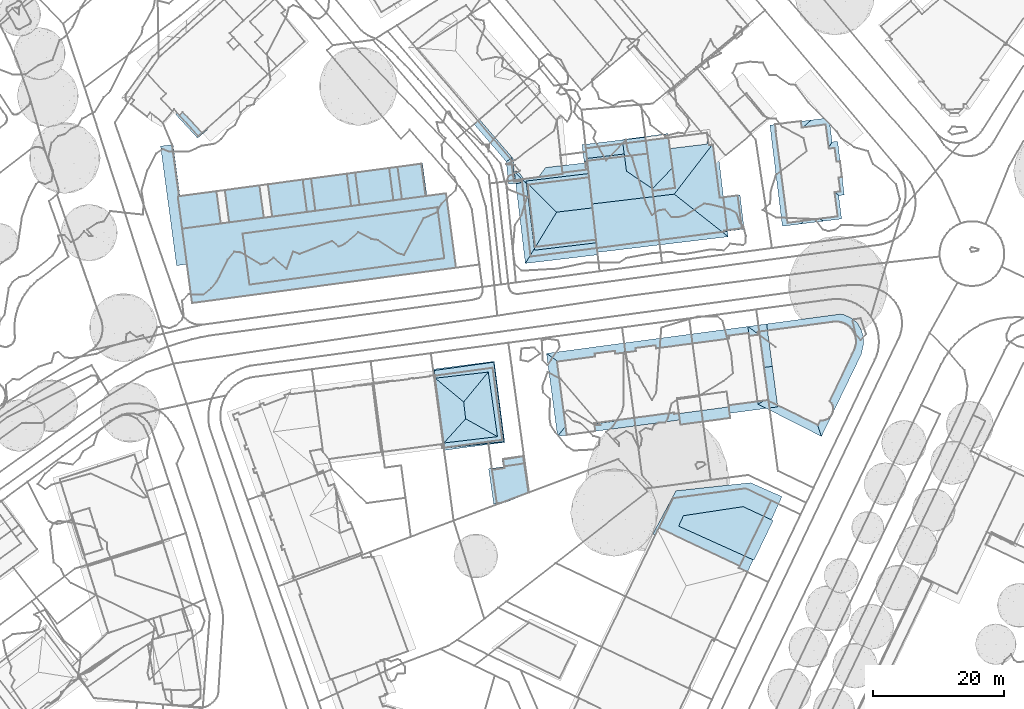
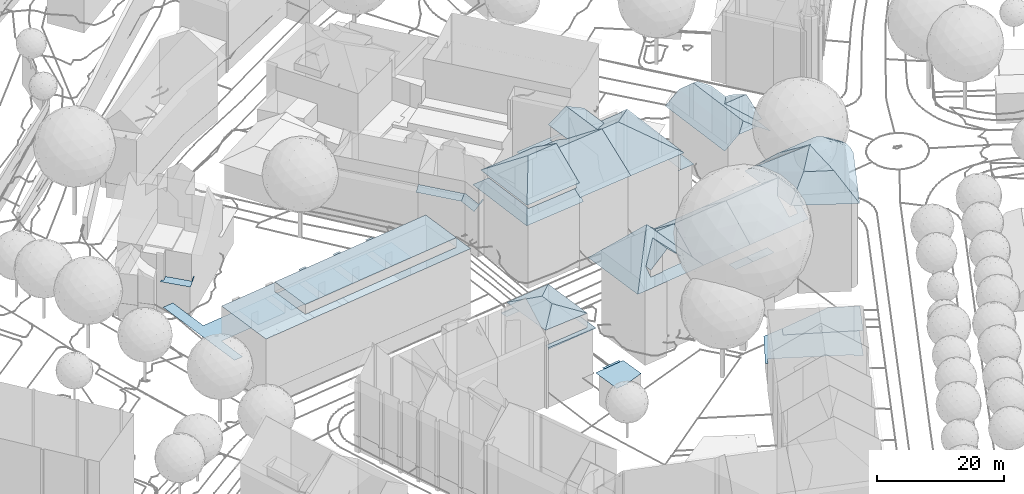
# Not in any storey, part 73 of 494: 28 roofs.
"""IFC2X3 model written with IfcOpenShell, lengths in metres."""

import ifcopenshell
import ifcopenshell.guid

model = None  # the IFC model being written
_history = None  # IfcOwnerHistory: only IFC2X3 demands one
_inside = {}  # id of a spatial element -> (the spatial element, [elements in it])
_under = {}  # id of a project, library or spatial element -> (it, [spatial elements below it])
_declared = {}  # id of a project -> (the project, [libraries it declares])
_typed = {}  # id of a type object -> (the type object, [elements of that type])
_made_of = {}  # id of a material, layer set ... -> (it, [elements and type objects made of it])


def new_model(schema):
    """Start an empty IFC model of exactly this schema.

    Asked for "IFC4X3", IfcOpenShell would pick the latest addendum, in which some entities
    have other attributes; the version numbers below select the first issue.
    IFC2X3 requires an IfcOwnerHistory on every rooted entity: one is made here for all.
    """
    global model, _history
    if schema == "IFC4X3":
        model = ifcopenshell.file(schema_version=(4, 3, 0, 0))
    else:
        model = ifcopenshell.file(schema=schema)
    _inside.clear()
    _under.clear()
    _declared.clear()
    _typed.clear()
    _made_of.clear()
    _history = None
    if model.schema == "IFC2X3":
        org = make("IfcOrganization", Name="unknown")
        user = make(
            "IfcPersonAndOrganization",
            ThePerson=make("IfcPerson", FamilyName="unknown"),
            TheOrganization=org,
        )
        app = make(
            "IfcApplication",
            ApplicationDeveloper=org,
            Version="unknown",
            ApplicationFullName="unknown",
            ApplicationIdentifier="unknown",
        )
        _history = make(
            "IfcOwnerHistory",
            OwningUser=user,
            OwningApplication=app,
            ChangeAction="ADDED",
            CreationDate=0,
        )
    return model


def make(cls, **values):
    """One entity of the class cls with the attributes given. An attribute that is None is left unset."""
    return model.create_entity(
        cls, **{name: value for name, value in values.items() if value is not None}
    )


def rooted(cls, **values):
    """An entity with a GlobalId (a new one), such as an element, a storey or a relation."""
    return make(cls, GlobalId=ifcopenshell.guid.new(), OwnerHistory=_history, **values)


def si_unit(unit_type, name, prefix=None):
    """IfcSIUnit, for example si_unit("LENGTHUNIT", "METRE", prefix="MILLI")."""
    return make("IfcSIUnit", UnitType=unit_type, Prefix=prefix, Name=name)


def assignment(units):
    """IfcUnitAssignment: the units of a project."""
    return None if units is None else make("IfcUnitAssignment", Units=units)


def point(xyz):
    """IfcCartesianPoint."""
    return None if xyz is None else make("IfcCartesianPoint", Coordinates=xyz)


def direction(xyz):
    """IfcDirection."""
    return None if xyz is None else make("IfcDirection", DirectionRatios=xyz)


def frame(location, z_axis=None, x_axis=None):
    """IfcAxis2Placement3D, a coordinate frame: its origin and axes. An axis left out is left unset."""
    return make(
        "IfcAxis2Placement3D",
        Location=point(location),
        Axis=direction(z_axis),
        RefDirection=direction(x_axis),
    )


def origin_with_axes():
    """The frame at (0, 0, 0) with the z axis (0, 0, 1) and the x axis (1, 0, 0) written out."""
    return frame((0.0, 0.0, 0.0), z_axis=(0.0, 0.0, 1.0), x_axis=(1.0, 0.0, 0.0))


def place(relative_to, where):
    """IfcLocalPlacement: puts the frame where relative to a parent placement (None: the world)."""
    return make(
        "IfcLocalPlacement", PlacementRelTo=relative_to, RelativePlacement=where
    )


def context(
    kind, dimensions, precision=None, world=None, true_north=None, identifier=None
):
    """IfcGeometricRepresentationContext, for example the 3D "Model" context."""
    return make(
        "IfcGeometricRepresentationContext",
        ContextIdentifier=identifier,
        ContextType=kind,
        CoordinateSpaceDimension=dimensions,
        Precision=precision,
        WorldCoordinateSystem=world,
        TrueNorth=true_north,
    )


def subcontext(parent, identifier, kind, view, scale=None):
    """IfcGeometricRepresentationSubContext, for example "Body" below "Model"."""
    return make(
        "IfcGeometricRepresentationSubContext",
        ContextIdentifier=identifier,
        ContextType=kind,
        ParentContext=parent,
        TargetScale=scale,
        TargetView=view,
    )


def project(units=None, contexts=None):
    """IfcProject with its units and contexts."""
    return rooted(
        "IfcProject",
        Name="project",
        RepresentationContexts=contexts,
        UnitsInContext=assignment(units),
    )


def faces_of(points, faces, orient=None, outer=None):
    """IfcFace entities. A face is a list of loops; a loop is a list of indices into points, from 0.

    orient and outer hold one flag for each loop. By default every Orientation is true, the
    first loop of a face is its IfcFaceOuterBound and the others are IfcFaceBound.
    """
    made = []
    for i, loops in enumerate(faces):
        bounds = []
        for j, loop in enumerate(loops):
            is_outer = j == 0 if outer is None else outer[i][j]
            bounds.append(
                make(
                    "IfcFaceOuterBound" if is_outer else "IfcFaceBound",
                    Bound=make("IfcPolyLoop", Polygon=[points[k] for k in loop]),
                    Orientation=True if orient is None else orient[i][j],
                )
            )
        made.append(make("IfcFace", Bounds=bounds))
    return made


def faceted_brep(points, faces, orient=None, outer=None, voids=None):
    """IfcFacetedBrep: a solid bounded by flat faces; with voids (closed shells), ...WithVoids."""
    shared = [point(p) for p in points]
    hull = make("IfcClosedShell", CfsFaces=faces_of(shared, faces, orient, outer))
    if voids is None:
        return make("IfcFacetedBrep", Outer=hull)
    return make(
        "IfcFacetedBrepWithVoids",
        Outer=hull,
        Voids=[
            make(cls, CfsFaces=faces_of(shared, fs, o, b)) for cls, fs, o, b in voids
        ],
    )


def shape(context_of_items, identifier, shape_type, items):
    """IfcShapeRepresentation: the items that make up one representation, for example the "Body"."""
    return make(
        "IfcShapeRepresentation",
        ContextOfItems=context_of_items,
        RepresentationIdentifier=identifier,
        RepresentationType=shape_type,
        Items=items,
    )


def made_of(thing, what):
    """Note that an element or type object is made of a material, layer set ...; save() writes the relation."""
    if what is not None:
        _made_of.setdefault(what.id(), (what, []))[1].append(thing)
    return thing


def element(
    cls,
    number,
    at=None,
    inside=None,
    cuts=None,
    type_object=None,
    material=None,
    context=None,
    identifier="Body",
    shape_type=None,
    held_by="IfcProductDefinitionShape",
    body=None,
    shapes=None,
    **own,
):
    """One element of the class cls, such as IfcWall. Its Tag is "e" and its number.

    at: its placement. inside: the storey or other place that contains it. cuts: it is an
    opening in that element (IfcRelVoidsElement). A single representation is given by context,
    identifier, shape_type and body (its items); several are given by shapes. held_by: the class
    of the entity that holds the representations. save() writes the other relations.
    """
    e = rooted(cls, Tag="e%d" % number, ObjectPlacement=at, **own)
    if body is not None:
        shapes = [shape(context, identifier, shape_type, body)]
    if shapes is not None:
        e.Representation = make(held_by, Representations=shapes)
    if inside is not None:
        _inside.setdefault(inside.id(), (inside, []))[1].append(e)
    if cuts is not None:
        rooted(
            "IfcRelVoidsElement", RelatingBuildingElement=cuts, RelatedOpeningElement=e
        )
    if type_object is not None:
        _typed.setdefault(type_object.id(), (type_object, []))[1].append(e)
    return made_of(e, material)


def aggregate(whole, parts):
    """IfcRelAggregates: a whole, such as a stair, and the parts it consists of."""
    return rooted("IfcRelAggregates", RelatingObject=whole, RelatedObjects=parts)


def save(model, path):
    """Write the relations noted so far, then the file.

    IfcRelAggregates (storeys below a building ...), IfcRelContainedInSpatialStructure (elements
    in a storey), IfcRelDefinesByType, IfcRelAssociatesMaterial and IfcRelDeclares: one each for
    every whole, place, type object, material and project.
    """
    for whole, parts in _under.values():
        aggregate(whole, parts)
    for where, things in _inside.values():
        rooted(
            "IfcRelContainedInSpatialStructure",
            RelatedElements=things,
            RelatingStructure=where,
        )
    for kind, things in _typed.values():
        rooted("IfcRelDefinesByType", RelatedObjects=things, RelatingType=kind)
    for what, things in _made_of.values():
        rooted("IfcRelAssociatesMaterial", RelatedObjects=things, RelatingMaterial=what)
    for by, libraries in _declared.values():
        rooted("IfcRelDeclares", RelatingContext=by, RelatedDefinitions=libraries)
    model.write(path)


model = new_model("IFC2X3")

# Units and contexts
model_context = context("Model", 3, precision=1e-05, world=origin_with_axes())
body_context = subcontext(model_context, "Body", "Model", "MODEL_VIEW")
ifc_project = project(units=[si_unit("AREAUNIT", "SQUARE_METRE"), si_unit("LENGTHUNIT", "METRE")], contexts=[model_context])

# Roofs
roof_1_placement = place(None, frame((511.1767320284, 156.3465160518, 499.6435), z_axis=(0.0, 0.0, 1.0), x_axis=(1.0, 0.0, 0.0)))
element("IfcRoof", 1, at=roof_1_placement, Name="Roof 0", ShapeType="NOTDEFINED", context=body_context, shape_type="Brep", body=[
    faceted_brep([(5.6009999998, -3.5645000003, 6.2974), (-0.5510000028, 0.183600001, 6.2974), (2.057, -4.9600000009, 6.2974), (4.936999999, 0.9834000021, 6.2974), (0.2249999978, -5.2216999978, 6.2974)], [[[0, 1, 2]], [[0, 3, 1]], [[2, 1, 4]]]),
])
roof_2_placement = place(None, frame((511.1767320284, 156.3465160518, 499.6435), z_axis=(0.0, 0.0, 1.0), x_axis=(1.0, 0.0, 0.0)))
element("IfcRoof", 2, at=roof_2_placement, Name="Roof 1", ShapeType="NOTDEFINED", context=body_context, shape_type="Brep", body=[
    faceted_brep([(1.4909999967, 1.5547000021, 5.7095), (1.6519999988, 0.495099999, 5.7094), (4.7589999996, 2.067400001, 5.7094), (4.936999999, 0.9834000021, 5.7094)], [[[0, 1, 2]], [[3, 2, 1]]]),
])
roof_3_placement = place(None, frame((541.9047320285, 175.7068160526, 499.9965), z_axis=(0.0, 0.0, 1.0), x_axis=(1.0, 0.0, 0.0)))
element("IfcRoof", 3, at=roof_3_placement, Name="Roof 0", ShapeType="NOTDEFINED", context=body_context, shape_type="Brep", body=[
    faceted_brep([(5.5399999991, -9.6748000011, 11.4488), (1.3649999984, -10.2342999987, 11.4488), (5.7719999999, -11.4081999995, 11.4488), (1.5959999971, -11.9668000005, 11.4488)], [[[0, 1, 2]], [[2, 1, 3]]]),
])
roof_4_placement = place(None, frame((541.9047320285, 175.7068160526, 499.9965), z_axis=(0.0, 0.0, 1.0), x_axis=(1.0, 0.0, 0.0)))
element("IfcRoof", 4, at=roof_4_placement, Name="Roof 1", ShapeType="NOTDEFINED", context=body_context, shape_type="Brep", body=[
    faceted_brep([(8.5829999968, 1.6055000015, 17.7033), (9.0219999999, -1.7421000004, 17.7032), (9.2049999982, 1.2256000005, 18.2712), (8.4479999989, 2.6367999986, 17.7033), (10.6679999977, -1.5029000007, 19.3701), (10.9149999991, -3.6464000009, 19.3361), (10.8699999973, -8.7490000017, 18.6261), (9.5659999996, -5.8876999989, 17.7032), (9.9579999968, -8.871100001, 17.7032), (10.0119999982, -9.2822000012, 17.7032), (11.5799999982, -8.308600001, 19.3891), (9.5139999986, 1.8456999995, 18.4682), (9.9729999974, 1.5058999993, 18.7971), (10.2969999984, 1.2657000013, 19.0301), (11.7059999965, -9.2430999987, 18.5372), (11.8349999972, -10.2080000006, 17.7032), (9.9579999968, -8.871100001, 15.2985), (1.4969999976, -11.2254999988, 14.3306), (13.0259999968, -9.683600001, 14.3306), (9.5989999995, -6.1356999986, 17.5033), (0.6689999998, -5.0166000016, 19.3361), (11.6259999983, -8.6484000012, 15.2985), (12.1959999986, -3.4754999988, 19.3361), (10.9549999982, -3.6416000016, 19.3361), (10.9809999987, -3.8379000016, 19.1771), (11.3269999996, 3.0214999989, 14.3306), (9.9349999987, 1.7881000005, 15.1235), (10.2219999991, 1.8262000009, 15.1235), (10.9269999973, -3.433600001, 19.1751), (8.5829999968, 1.6055000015, 15.1245), (8.6169999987, 1.6114000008, 15.1245), (8.6779999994, 1.1552999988, 15.4755), (-0.1980000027, 1.4805000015, 14.3306), (0.0, 0.0, 15.4715), (8.987999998, -1.4824000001, 17.5033), (9.9959999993, 1.3321000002, 15.4745), (10.0839999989, 2.8555000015, 17.7033), (10.2219999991, 1.8262000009, 18.7871), (9.9729999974, 1.5058999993, 19.0831), (10.2969999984, 1.2657000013, 19.3771)], [[[0, 1, 2]], [[0, 2, 3]], [[4, 2, 5]], [[6, 7, 8]], [[6, 8, 9]], [[5, 6, 10]], [[1, 5, 2]], [[5, 10, 4]], [[5, 7, 6]], [[3, 2, 11]], [[11, 2, 4]], [[12, 4, 13]], [[4, 12, 11]], [[6, 9, 14]], [[14, 10, 6]], [[9, 15, 14]], [[16, 17, 18]], [[17, 16, 19]], [[20, 19, 7]], [[19, 20, 17]], [[5, 20, 7]], [[18, 21, 16]], [[22, 21, 18]], [[22, 23, 24]], [[21, 22, 24]], [[25, 26, 27]], [[22, 28, 23]], [[28, 22, 27]], [[25, 27, 22]], [[25, 29, 30]], [[30, 26, 25]], [[30, 31, 26]], [[32, 29, 25]], [[33, 29, 32]], [[34, 33, 20]], [[1, 20, 5]], [[20, 1, 34]], [[29, 33, 34]], [[26, 31, 35]], [[36, 3, 37]], [[37, 38, 39]], [[38, 37, 3]]]),
])
roof_5_placement = place(None, frame((531.628732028, 174.3367160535, 499.9965), z_axis=(0.0, 0.0, 1.0), x_axis=(1.0, 0.0, 0.0)))
element("IfcRoof", 5, at=roof_5_placement, Name="Roof 0", ShapeType="NOTDEFINED", context=body_context, shape_type="Brep", body=[
    faceted_brep([(11.8719999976, -10.5967000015, 11.4488), (8.1779999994, -9.3271000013, 11.4488), (8.4100000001, -11.0595000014, 11.4488), (11.6409999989, -8.8641999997, 11.4488)], [[[0, 1, 2]], [[0, 3, 1]]]),
])
roof_6_placement = place(None, frame((531.628732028, 174.3367160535, 499.9965), z_axis=(0.0, 0.0, 1.0), x_axis=(1.0, 0.0, 0.0)))
element("IfcRoof", 6, at=roof_6_placement, Name="Roof 1", ShapeType="NOTDEFINED", context=body_context, shape_type="Brep", body=[
    faceted_brep([(11.6409999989, -8.8641999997, 15.1295), (1.5159999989, -11.2265000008, 14.3306), (11.7729999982, -9.8553999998, 14.3306), (1.3530000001, -10.0175999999, 15.3055), (10.9450000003, -3.6465000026, 19.3361), (0.6779999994, -5.0175999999, 19.3361), (10.2760000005, 1.370099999, 15.4715), (0.0, 0.0, 15.4685), (10.0779999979, 2.8506000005, 14.3306), (-0.199000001, 1.4756000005, 14.3306)], [[[0, 1, 2]], [[3, 0, 4]], [[5, 3, 4]], [[3, 1, 0]], [[6, 5, 4]], [[7, 6, 8]], [[6, 7, 5]], [[7, 8, 9]]]),
])
roof_7_placement = place(None, frame((521.1327320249, 172.9256160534, 499.9965), z_axis=(0.0, 0.0, 1.0), x_axis=(1.0, 0.0, 0.0)))
element("IfcRoof", 7, at=roof_7_placement, Name="Roof 0", ShapeType="NOTDEFINED", context=body_context, shape_type="Brep", body=[
    faceted_brep([(6.626000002, -9.379900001, 19.5961), (6.1230000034, -5.6162, 19.5961), (3.1810000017, -8.5811000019, 16.8813), (3.3460000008, -9.8164000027, 16.8813), (8.870000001, 1.6561999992, 15.1185), (10.4740000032, 1.5722999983, 15.3445), (10.3740000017, 2.3154000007, 14.7715), (5.7780000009, 1.2412, 15.1195), (10.3840000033, 1.3964999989, 15.4685), (8.9310000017, 1.2011999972, 15.4685), (-0.9459999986, 0.8007999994, 14.7716), (0.1650000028, 0.0224999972, 15.4735), (5.8390000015, 0.7850999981, 15.4705), (0.0, 0.0, 15.3565), (0.8020000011, -10.5557000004, 14.9315), (1.3270000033, -9.9530999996, 15.3545), (0.5950000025, -10.7363000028, 14.7705), (11.9110000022, -9.0692999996, 14.9325), (11.8490000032, -8.6064999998, 15.3055), (5.7040000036, -9.4326000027, 15.3015), (5.7660000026, -9.8925999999, 14.9315), (11.1740000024, -3.6064999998, 19.3361), (7.745000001, -4.0654000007, 19.3361), (11.8110000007, -8.3280999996, 15.5305), (10.5090000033, 1.3134999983, 15.5445), (1.3980000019, -10.4766000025, 14.9305), (6.6166000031, -9.3095999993, 19.5961), (8.1610000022, -7.0117000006, 17.8332), (9.4290000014, -9.004900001, 16.8813), (9.2630000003, -7.7666000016, 16.8813), (0.1640000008, 0.0224999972, 15.9914), (-1.6439999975, 1.2899999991, 14.3306), (1.3120000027, -9.8368999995, 15.8194), (5.939000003, -4.0293000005, 21.2969), (0.0550000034, -11.4150000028, 14.3306), (5.8660000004, -10.6377000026, 14.3306), (13.0930000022, -9.6709000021, 14.3306), (11.7590000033, -8.6192000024, 15.6295), (9.4190000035, -8.933600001, 15.6275), (9.2880000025, -7.9530999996, 16.6814), (5.7130000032, -9.5020000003, 15.5515), (5.7040000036, -9.4326000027, 15.6255), (3.3460000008, -9.8164000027, 15.5525), (1.4970000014, -11.2217000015, 14.3306), (3.2060000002, -8.7666000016, 16.6814), (11.7780000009, -8.0800999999, 15.5305), (10.5440000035, 1.0537, 15.5435), (11.3940000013, 3.0341999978, 14.3306), (10.0990000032, 1.3583999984, 15.9834)], [[[0, 1, 2]], [[0, 2, 3]], [[4, 5, 6]], [[6, 7, 4]], [[5, 4, 8]], [[9, 8, 4]], [[7, 10, 11]], [[6, 10, 7]], [[11, 12, 7]], [[10, 13, 11]], [[13, 10, 14]], [[13, 14, 15]], [[14, 10, 16]], [[17, 18, 19]], [[19, 20, 17]], [[21, 22, 23]], [[21, 24, 22]], [[15, 14, 25]], [[1, 26, 27]], [[27, 26, 0]], [[28, 29, 0]], [[0, 29, 27]], [[30, 31, 32]], [[30, 32, 33]], [[32, 31, 34]], [[35, 36, 37]], [[35, 37, 38]], [[29, 37, 27]], [[39, 37, 29]], [[35, 38, 40]], [[41, 40, 38]], [[38, 37, 39]], [[35, 40, 42]], [[1, 33, 2]], [[33, 1, 27]], [[27, 37, 33]], [[2, 33, 32]], [[43, 42, 32]], [[43, 35, 42]], [[43, 32, 34]], [[32, 42, 44]], [[32, 44, 2]], [[36, 23, 37]], [[23, 36, 45]], [[23, 22, 37]], [[37, 22, 33]], [[36, 46, 45]], [[46, 47, 24]], [[47, 46, 36]], [[48, 33, 22]], [[22, 24, 48]], [[48, 24, 47]], [[48, 47, 30]], [[30, 33, 48]], [[31, 30, 47]]]),
])
roof_8_placement = place(None, frame((552.1267320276, 177.5330160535, 499.9185), z_axis=(0.0, 0.0, 1.0), x_axis=(1.0, 0.0, 0.0)))
element("IfcRoof", 8, at=roof_8_placement, Name="Roof 0", ShapeType="NOTDEFINED", context=body_context, shape_type="Brep", body=[
    faceted_brep([(14.0759999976, 0.4804999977, 18.6951), (15.0209999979, 1.3105999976, 17.7812), (14.0079999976, 0.5605999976, 18.7091), (10.7809999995, -1.8525000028, 21.6739), (12.0889999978, -1.2646000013, 20.615), (14.5469999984, -0.259800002, 18.6591), (15.6499999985, 0.191399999, 17.7812), (14.7559999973, -0.9189000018, 18.6462), (14.7740000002, -1.0117000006, 18.6551), (15.9289999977, -0.7685000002, 17.7812), (12.9600000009, -2.0391000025, 20.261), (11.2899999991, -2.808600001, 21.6739), (14.8029999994, -1.25, 18.7211), (14.7760000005, -1.9891999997, 18.7451), (14.7410000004, -2.1757999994, 18.7801), (15.930999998, -1.9570000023, 17.7812), (9.8350000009, -1.4530999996, 21.6739), (12.3939999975, 1.4736000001, 18.7711), (12.9450000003, 2.6083999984, 17.7812), (13.2100000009, 1.1757999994, 18.7231), (13.9849999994, 2.1415999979, 17.7812), (11.6449999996, 1.5351999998, 18.8721), (12.3499999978, 2.6983000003, 17.7812), (13.5099999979, 0.990199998, 18.7101), (14.3649999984, 1.8817999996, 17.7812), (7.7210000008, -10.9365000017, 21.6739), (11.1559999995, -12.6357000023, 17.7812), (14.175999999, -3.5419999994, 19.0551), (11.243999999, -3.6766999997, 21.6739), (15.6009999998, -3.4775000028, 17.7812), (9.498999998, -16.0381000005, 17.7812), (8.8770000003, -14.2539000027, 19.1421), (14.3029999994, -3.2763999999, 18.9531), (6.5009999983, -5.4297000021, 23.7087), (2.5260000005, -2.3779000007, 21.6739), (3.4120000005, -8.8594000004, 21.6739), (1.4279999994, -10.6562000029, 18.9911), (1.3579999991, -10.134800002, 19.4671), (1.4839999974, -11.0713, 18.6132), (1.612999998, -12.0342000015, 17.7812), (0.4459999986, -3.3291000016, 19.4481), (2.8000000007, -2.6387000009, 21.0569), (0.0789999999, -0.5859000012, 19.1081), (9.5969999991, 1.2753999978, 18.8721), (-0.1380000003, 1.0293000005, 17.7813), (0.0, 0.0, 18.8651), (0.0789999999, -0.563500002, 19.4551), (0.0789999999, -0.5859000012, 19.4551), (0.0789999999, -0.5859000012, 19.2551), (2.5260000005, -2.3779000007, 21.4739), (6.5009999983, -5.4297000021, 23.5087)], [[[0, 1, 2]], [[3, 4, 0]], [[3, 0, 2]], [[0, 4, 5]], [[6, 1, 0]], [[6, 0, 5]], [[4, 3, 7]], [[8, 9, 7]], [[8, 7, 3]], [[5, 4, 7]], [[9, 6, 5]], [[9, 5, 7]], [[10, 3, 11]], [[9, 8, 12]], [[12, 3, 10]], [[3, 12, 8]], [[10, 11, 13]], [[14, 15, 13]], [[14, 13, 11]], [[10, 13, 12]], [[12, 15, 9]], [[15, 12, 13]], [[16, 3, 17]], [[16, 17, 18]], [[17, 3, 19]], [[20, 18, 17]], [[20, 17, 19]], [[21, 16, 18]], [[18, 22, 21]], [[19, 3, 23]], [[24, 20, 19]], [[24, 19, 23]], [[23, 3, 2]], [[1, 24, 23]], [[1, 23, 2]], [[25, 26, 27]], [[25, 27, 28]], [[27, 26, 29]], [[30, 26, 31]], [[25, 31, 26]], [[29, 32, 27]], [[27, 11, 28]], [[11, 27, 32]], [[29, 15, 32]], [[14, 11, 32]], [[14, 32, 15]], [[11, 33, 28]], [[16, 34, 33]], [[3, 33, 11]], [[33, 3, 16]], [[25, 28, 33]], [[25, 33, 35]], [[36, 25, 37]], [[25, 35, 37]], [[25, 36, 38]], [[38, 39, 31]], [[31, 25, 38]], [[30, 31, 39]], [[40, 37, 35]], [[35, 33, 40]], [[41, 42, 40]], [[41, 40, 33]], [[21, 22, 43]], [[34, 16, 21]], [[34, 21, 43]], [[43, 22, 44]], [[43, 45, 34]], [[45, 43, 44]], [[34, 45, 46]], [[47, 33, 34]], [[48, 49, 41]], [[50, 41, 49]]]),
])
roof_9_placement = place(None, frame((509.0277320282, 209.8641160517, 500.1695), z_axis=(0.0, 0.0, 1.0), x_axis=(1.0, 0.0, 0.0)))
element("IfcRoof", 9, at=roof_9_placement, Name="Roof 0", ShapeType="NOTDEFINED", context=body_context, shape_type="Brep", body=[
    faceted_brep([(6.4839999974, -9.5458999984, 10.841), (6.4579999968, -9.2714999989, 10.841), (5.6569999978, -9.3594000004, 10.184), (4.6319999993, -9.7188000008, 9.3241), (4.9479999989, -5.8213, 9.8761), (4.3099999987, -6.2665999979, 9.3241), (5.3200000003, -5.7509999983, 10.183), (5.2179999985, -5.6338, 10.109), (0.2089999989, 0.1777000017, 10.1091), (0.0, 0.0, 9.9131), (-0.6290000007, -0.5370999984, 9.3241)], [[[0, 1, 2]], [[3, 2, 4]], [[3, 0, 2]], [[3, 4, 5]], [[6, 7, 4]], [[6, 4, 2]], [[4, 7, 8]], [[5, 4, 9]], [[9, 10, 5]], [[8, 9, 4]]]),
])
roof_10_placement = place(None, frame((525.5527320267, 205.6209160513, 499.3996), z_axis=(0.0, 0.0, 1.0), x_axis=(1.0, 0.0, 0.0)))
element("IfcRoof", 10, at=roof_10_placement, Name="Roof 0", ShapeType="NOTDEFINED", context=body_context, shape_type="Brep", body=[
    faceted_brep([(9.2019999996, 1.1709000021, 13.9586), (9.1259999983, 1.7393000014, 13.9586), (5.6440000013, 0.7178000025, 13.9586), (5.8520000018, -0.8506000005, 13.9586), (0.1700000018, -1.5302999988, 13.9586), (-0.6050000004, 0.5742000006, 13.9586), (-0.2980000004, -1.9882999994, 13.9586), (0.2149999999, -1.9267999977, 13.9586)], [[[0, 1, 2]], [[3, 2, 4]], [[1, 5, 2]], [[4, 5, 6]], [[5, 4, 2]], [[6, 7, 4]]]),
])
roof_11_placement = place(None, frame((525.5527320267, 205.6209160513, 499.3996), z_axis=(0.0, 0.0, 1.0), x_axis=(1.0, 0.0, 0.0)))
element("IfcRoof", 11, at=roof_11_placement, Name="Roof 1", ShapeType="NOTDEFINED", context=body_context, shape_type="Brep", body=[
    faceted_brep([(9.1119999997, 1.8368999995, 18.6182), (5.5579999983, 1.3652000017, 16.5954), (5.6440000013, 0.7178000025, 16.5954), (9.2019999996, 1.1709000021, 18.6182), (6.2019999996, -3.4872999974, 16.5954), (10.1770000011, -6.1688999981, 18.6182), (1.3779999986, -15.9696999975, 14.5096), (1.6099999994, -14.4540999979, 15.4795), (1.2019999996, -14.5029000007, 15.4795), (11.2259999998, -14.0683999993, 14.9795), (10.3379999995, -7.3817999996, 19.4071), (0.9479999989, -8.5067999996, 19.4071), (11.3200000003, -14.7782999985, 14.5095), (-0.3460000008, -1.5918000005, 14.8795), (0.4279999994, -3.8436999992, 16.3814), (0.1700000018, -1.5302999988, 14.8795), (-0.0689999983, -3.9043000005, 16.3814), (5.8520000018, -0.8506000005, 14.8805), (6.1609999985, -3.1787, 16.3954)], [[[0, 1, 2]], [[0, 2, 3]], [[3, 4, 5]], [[4, 3, 2]], [[6, 7, 8]], [[6, 9, 7]], [[7, 9, 10]], [[7, 10, 11]], [[12, 9, 6]], [[13, 14, 15]], [[14, 13, 16]], [[17, 15, 14]], [[14, 11, 4]], [[5, 4, 11]], [[14, 18, 17]], [[18, 14, 4]], [[5, 11, 10]]]),
])
roof_12_placement = place(None, frame((514.7257320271, 200.7361160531, 500.1685), z_axis=(0.0, 0.0, 1.0), x_axis=(1.0, 0.0, 0.0)))
element("IfcRoof", 12, at=roof_12_placement, Name="Roof 0", ShapeType="NOTDEFINED", context=body_context, shape_type="Brep", body=[
    faceted_brep([(2.9069999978, -10.4774999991, 16.6704), (12.436999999, -9.5692999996, 16.5144), (6.3260000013, -4.8759000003, 20.1511), (12.5199999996, -10.3154000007, 16.0074), (2.256000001, -11.5439000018, 16.0074), (11.8409999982, -4.2168000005, 20.1511), (11.254999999, 1.0410000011, 16.5214), (1.6660000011, -0.2987999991, 16.6514), (11.1719999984, 1.7841999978, 16.0075), (0.8090000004, 0.5439999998, 16.0075)], [[[0, 1, 2]], [[3, 0, 4]], [[1, 5, 2]], [[1, 0, 3]], [[6, 2, 5]], [[7, 6, 8]], [[6, 7, 2]], [[7, 8, 9]], [[7, 9, 4]], [[0, 2, 7]], [[4, 0, 7]]]),
])
roof_13_placement = place(None, frame((514.7257320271, 200.7361160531, 500.1685), z_axis=(0.0, 0.0, 1.0), x_axis=(1.0, 0.0, 0.0)))
element("IfcRoof", 13, at=roof_13_placement, Name="Roof 1", ShapeType="NOTDEFINED", context=body_context, shape_type="Brep", body=[
    faceted_brep([(11.1519999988, 1.9648999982, 13.6867), (11.068, 2.7245999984, 13.0247), (10.7399999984, 2.6855999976, 13.0247), (3.5219999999, 0.4638999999, 14.1916), (11.254999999, 1.0410999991, 14.4916), (4.623999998, 1.9531999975, 13.0248), (1.0760000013, 0.1415999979, 14.2166), (0.3509999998, 1.441399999, 13.0248), (-0.1649999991, 1.379900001, 13.0248), (1.686999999, -0.4686999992, 14.8036), (1.6429999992, -0.1112999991, 14.4916), (1.3460000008, 0.1767999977, 14.2136), (2.3220000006, -11.4365000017, 14.0636), (2.9349999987, -10.7070000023, 14.6266), (2.9160000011, -10.4638000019, 14.8386), (1.5260000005, -12.7402000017, 13.0247), (12.6420000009, -11.4090999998, 13.0247), (12.5300000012, -10.4033000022, 13.9006), (12.436999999, -9.5692999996, 14.6266), (0.0, 0.0, 13.0248), (0.0269999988, -0.2246000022, 13.0248)], [[[0, 1, 2]], [[3, 4, 0]], [[0, 2, 5]], [[5, 3, 0]], [[6, 7, 8]], [[9, 10, 6]], [[11, 6, 10]], [[6, 11, 7]], [[10, 3, 11]], [[10, 4, 3]], [[12, 13, 14]], [[12, 15, 16]], [[12, 17, 13]], [[17, 12, 16]], [[13, 17, 18]], [[19, 20, 6]], [[6, 8, 19]], [[20, 12, 6]], [[14, 6, 12]], [[9, 6, 14]], [[12, 20, 15]]]),
])
roof_14_placement = place(None, frame((534.7547320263, 206.7918160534, 499.1526), z_axis=(0.0, 0.0, 1.0), x_axis=(1.0, 0.0, 0.0)))
element("IfcRoof", 14, at=roof_14_placement, Name="Roof 1", ShapeType="NOTDEFINED", context=body_context, shape_type="Brep", body=[
    faceted_brep([(15.0260000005, -13.5419999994, 11.0119), (12.4660000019, -13.7118999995, 11.0119), (11.9780000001, -13.9072000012, 11.0119), (14.3940000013, -8.2646000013, 11.0119), (11.9609999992, -13.7773000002, 11.0119), (11.300999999, -8.6357000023, 11.0119), (11.3170000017, -8.7578000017, 11.0119), (11.8640000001, -8.6875, 11.0119)], [[[0, 1, 2]], [[1, 0, 3]], [[1, 4, 2]], [[5, 6, 7]], [[3, 7, 1]], [[5, 7, 3]]]),
])
roof_15_placement = place(None, frame((534.7547320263, 206.7918160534, 499.1526), z_axis=(0.0, 0.0, 1.0), x_axis=(1.0, 0.0, 0.0)))
element("IfcRoof", 15, at=roof_15_placement, Name="Roof 2", ShapeType="NOTDEFINED", context=body_context, shape_type="Brep", body=[
    faceted_brep([(2.0240000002, -15.2393000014, 15.2265), (2.1180000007, -15.9492000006, 14.7565), (11.6950000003, -13.9932000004, 15.2835), (1.1359999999, -8.5527000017, 19.6541), (4.3170000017, -8.1719000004, 19.6541), (12.5839999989, -14.6953000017, 14.7565), (10.7939999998, 0.2529000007, 14.7566), (10.1030000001, -0.6465000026, 15.2795), (11.8640000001, -8.6875, 14.7565), (12.4660000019, -13.7118999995, 14.7565), (0.9750000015, -7.3398000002, 18.8652), (4.069000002, -4.1104000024, 17.0343), (4.0280000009, -3.8027000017, 16.8344), (9.3709999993, -0.4979999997, 15.1275), (9.5300000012, 0.1006000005, 14.7566), (3.6799999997, -1.1797000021, 15.1275), (9.3029999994, 0.0742000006, 14.7566), (-0.0899999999, 0.6659999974, 18.8652), (0.0, 0.0, 18.8652), (3.3740000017, 1.1259999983, 17.0344), (3.4640000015, 0.4452999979, 17.0344)], [[[0, 1, 2]], [[3, 0, 4]], [[0, 2, 4]], [[2, 1, 5]], [[6, 7, 8]], [[8, 7, 4]], [[2, 9, 8]], [[5, 9, 2]], [[2, 8, 4]], [[3, 4, 10]], [[11, 10, 4]], [[12, 11, 13]], [[4, 7, 11]], [[14, 13, 7]], [[13, 15, 12]], [[14, 7, 6]], [[16, 13, 14]], [[13, 11, 7]], [[17, 18, 19]], [[19, 18, 20]], [[18, 11, 20]], [[11, 18, 10]]]),
])
roof_16_placement = place(None, frame((554.542732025, 209.2947160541, 500.1665), z_axis=(0.0, 0.0, 1.0), x_axis=(1.0, 0.0, 0.0)))
element("IfcRoof", 16, at=roof_16_placement, Name="Roof 1", ShapeType="NOTDEFINED", context=body_context, shape_type="Brep", body=[
    faceted_brep([(5.8100000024, -7.3300000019, 12.6567), (5.6150000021, -0.3017000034, 12.2188), (4.2050000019, -0.4873000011, 13.1537), (5.4940000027, 0.6767999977, 12.2188), (6.3790000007, -6.5009000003, 12.2188), (3.875, -0.7851000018, 13.3927), (5.4790000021, -13.7890000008, 13.3927), (6.768000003, -14.4746000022, 12.6067), (6.5590000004, -7.9521000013, 12.2188), (7.4050000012, -14.8144000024, 12.2188), (4.376000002, -14.7842000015, 12.5937), (3.8590000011, -15.2509000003, 12.2188), (8.2609999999, 1.0185999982, 10.173), (8.2140000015, -3.4931000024, 10.6129), (8.7160000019, -2.6699000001, 10.173), (1.949000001, 0.2402999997, 12.2188), (3.8100000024, -14.8584000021, 12.2188), (3.9600000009, 0.4882999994, 12.2188), (0.0, 0.0, 10.7789), (1.0910000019, -15.5927000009, 10.173), (-0.8199999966, -0.1006000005, 10.173), (10.251000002, -8.0830000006, 11.8598), (10.0930000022, -6.8008000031, 12.6567), (10.5860000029, -10.7959000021, 10.173), (9.1740000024, -10.3828000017, 10.5329), (9.7320000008, -10.9013000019, 10.173), (9.9539999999, -5.6728000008, 11.9958), (9.5700000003, -2.5654000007, 10.173), (10.1730000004, -14.4726000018, 10.173)], [[[0, 1, 2]], [[2, 1, 3]], [[4, 1, 0]], [[2, 5, 6]], [[0, 6, 7]], [[6, 0, 2]], [[0, 7, 8]], [[7, 9, 8]], [[10, 11, 9]], [[7, 6, 10]], [[9, 7, 10]], [[12, 3, 1]], [[12, 1, 13]], [[13, 14, 12]], [[4, 13, 1]], [[5, 10, 6]], [[10, 5, 15]], [[10, 16, 11]], [[16, 10, 15]], [[17, 15, 5]], [[2, 3, 17]], [[2, 17, 5]], [[18, 16, 15]], [[19, 18, 20]], [[16, 19, 11]], [[19, 16, 18]], [[21, 22, 8]], [[23, 21, 24]], [[0, 8, 22]], [[25, 23, 24]], [[24, 21, 8]], [[4, 0, 22]], [[13, 4, 26]], [[27, 13, 26]], [[14, 13, 27]], [[26, 4, 22]], [[24, 8, 9]], [[25, 24, 9]], [[9, 28, 25]]]),
])
roof_17_placement = place(None, frame((463.0307320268, 198.249816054, 500.4205), z_axis=(0.0, 0.0, 1.0), x_axis=(1.0, 0.0, 0.0)))
element("IfcRoof", 17, at=roof_17_placement, Name="Roof 0", ShapeType="NOTDEFINED", context=body_context, shape_type="Brep", body=[
    faceted_brep([(-0.2199999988, -10.5820000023, 5.7815), (1.3889999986, -10.3662, 5.7815), (0.6629999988, -4.9492000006, 5.7815), (-2.6710000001, 7.7206999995, 5.7815), (7.8759999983, -3.9834000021, 5.7815), (13.1790000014, -3.2734000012, 5.7815), (7.2129999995, 0.9677999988, 5.7815), (5.9239999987, 0.7949000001, 5.7815), (6.5870000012, -4.1562000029, 5.7815), (0.2980000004, 0.1796999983, 5.7815), (-0.7470000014, 7.9784999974, 5.7815), (12.5159999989, 1.6796999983, 5.7815), (13.8040000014, 1.8524999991, 5.7815), (19.1369999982, 2.5683999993, 5.7815), (37.4679999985, 5.1581999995, 5.7814), (14.4679999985, -3.1006000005, 5.7815), (19.8000000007, -2.3857000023, 5.7815), (26.5670000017, -1.4805000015, 5.7814), (20.425999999, 2.7412, 5.7815), (21.0890000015, -2.2129000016, 5.7814), (27.1909999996, 3.6484999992, 5.7815), (27.8550000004, -1.3066000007, 5.7814), (33.0500000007, -0.6113000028, 5.7814), (38.1490000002, 0.0722999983, 5.7814), (33.6750000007, 4.5185999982, 5.7814), (34.3390000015, -0.4394000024, 5.7814), (25.9030000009, 3.4755999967, 5.7815), (32.3859999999, 4.3456999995, 5.7814)], [[[0, 1, 2]], [[0, 2, 3]], [[4, 5, 6]], [[7, 2, 8]], [[3, 9, 10]], [[9, 3, 2]], [[7, 6, 9]], [[11, 12, 9]], [[12, 13, 9]], [[6, 5, 11]], [[6, 11, 9]], [[9, 2, 7]], [[13, 14, 9]], [[15, 16, 12]], [[17, 18, 19]], [[20, 21, 22]], [[23, 24, 25]], [[17, 26, 18]], [[14, 26, 20]], [[14, 18, 26]], [[24, 14, 27]], [[14, 24, 23]], [[20, 27, 14]], [[27, 20, 22]], [[14, 13, 18]], [[16, 13, 12]]]),
])
roof_18_placement = place(None, frame((463.0307320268, 198.249816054, 500.4205), z_axis=(0.0, 0.0, 1.0), x_axis=(1.0, 0.0, 0.0)))
element("IfcRoof", 18, at=roof_18_placement, Name="Roof 1", ShapeType="NOTDEFINED", context=body_context, shape_type="Brep", body=[
    faceted_brep([(2.1889999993, -16.3369000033, 12.5258), (10.9860000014, -13.5215000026, 12.5258), (9.9279999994, -5.6982000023, 12.5258), (42.6259999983, -10.9238000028, 12.5258), (0.6629999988, -4.9492000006, 12.5258), (40.8319999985, -9.4854000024, 12.5258), (39.7729999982, -1.6601999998, 12.5258), (41.1009999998, 0.4667999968, 12.5258)], [[[0, 1, 2]], [[1, 0, 3]], [[2, 4, 0]], [[5, 3, 6]], [[3, 5, 1]], [[4, 6, 7]], [[4, 2, 6]], [[7, 6, 3]]]),
])
roof_19_placement = place(None, frame((463.0307320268, 198.249816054, 500.4205), z_axis=(0.0, 0.0, 1.0), x_axis=(1.0, 0.0, 0.0)))
element("IfcRoof", 19, at=roof_19_placement, Name="Roof 4", ShapeType="NOTDEFINED", context=body_context, shape_type="Brep", body=[
    faceted_brep([(9.9279999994, -5.6982000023, 14.3936), (10.9860000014, -13.5215000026, 14.3936), (40.8319999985, -9.4853000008, 14.3936), (39.7729999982, -1.6601999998, 14.3936)], [[[0, 1, 2]], [[2, 3, 0]]]),
])
roof_20_placement = place(None, frame((463.0307320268, 198.249816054, 500.4205), z_axis=(0.0, 0.0, 1.0), x_axis=(1.0, 0.0, 0.0)))
element("IfcRoof", 20, at=roof_20_placement, Name="Roof 5", ShapeType="NOTDEFINED", context=body_context, shape_type="Brep", body=[
    faceted_brep([(27.8550000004, -1.3066000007, 8.4932), (25.8850000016, 3.6064999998, 8.4932), (26.5670000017, -1.4805000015, 8.4932), (27.1739999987, 3.7792999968, 8.4932)], [[[0, 1, 2]], [[1, 0, 3]]]),
])
roof_21_placement = place(None, frame((463.0307320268, 198.249816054, 500.4205), z_axis=(0.0, 0.0, 1.0), x_axis=(1.0, 0.0, 0.0)))
element("IfcRoof", 21, at=roof_21_placement, Name="Roof 6", ShapeType="NOTDEFINED", context=body_context, shape_type="Brep", body=[
    faceted_brep([(33.0500000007, -0.6113000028, 8.4932), (33.6579999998, 4.6474999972, 8.4932), (32.368999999, 4.4745999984, 8.4932), (34.3390000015, -0.4394000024, 8.4932)], [[[0, 1, 2]], [[1, 0, 3]]]),
])
roof_22_placement = place(None, frame((463.0307320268, 198.249816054, 500.4205), z_axis=(0.0, 0.0, 1.0), x_axis=(1.0, 0.0, 0.0)))
element("IfcRoof", 22, at=roof_22_placement, Name="Roof 7", ShapeType="NOTDEFINED", context=body_context, shape_type="Brep", body=[
    faceted_brep([(19.118999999, 2.7001999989, 8.4932), (19.8000000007, -2.3857000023, 8.4932), (20.4079999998, 2.8730999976, 8.4932), (21.0890000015, -2.2129000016, 8.4932)], [[[0, 1, 2]], [[2, 1, 3]]]),
])
roof_23_placement = place(None, frame((455.8447320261, 213.3826160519, 501.6645), z_axis=(0.0, 0.0, 1.0), x_axis=(1.0, 0.0, 0.0)))
element("IfcRoof", 23, at=roof_23_placement, Name="Roof 0", ShapeType="NOTDEFINED", context=body_context, shape_type="Brep", body=[
    faceted_brep([(6.8489999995, -2.5742000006, 5.6944), (7.4279999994, -2.6581999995, 5.8344), (7.1240000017, -2.3202999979, 5.8364), (10.194000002, -6.192400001, 5.6944), (10.8940000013, -5.3720999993, 6.1013), (7.943, -2.1805999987, 6.1013), (11.6970000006, -4.8896000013, 6.4503), (11.5800000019, -4.7626999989, 6.4503), (11.5789999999, -4.7617000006, 6.4503)], [[[0, 1, 2]], [[1, 0, 3]], [[1, 4, 5]], [[4, 3, 6]], [[3, 4, 1]], [[4, 7, 8]], [[7, 4, 6]]]),
])
roof_24_placement = place(None, frame((531.6427320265, 136.9305160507, 499.2035), z_axis=(0.0, 0.0, 1.0), x_axis=(1.0, 0.0, 0.0)))
element("IfcRoof", 24, at=roof_24_placement, Name="Roof 1", ShapeType="NOTDEFINED", context=body_context, shape_type="Brep", body=[
    faceted_brep([(4.1539999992, 9.6240000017, 5.7874), (4.5309999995, 9.451100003, 5.7874), (4.8920000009, 10.2031000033, 5.7874), (5.0969999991, 10.5166000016, 5.7874), (4.936999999, 10.1816000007, 5.7874), (7.675999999, 16.2265000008, 5.7875), (17.3390000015, 4.3935000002, 5.7874), (18.6519999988, 3.763600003, 5.7874), (17.4730000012, 4.6709000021, 5.7874), (23.9349999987, 15.3408000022, 5.7874), (19.1119999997, 17.4746000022, 5.7874)], [[[0, 1, 2]], [[3, 0, 2]], [[3, 2, 4]], [[0, 3, 5]], [[6, 7, 8]], [[8, 7, 9]], [[10, 5, 8]], [[10, 8, 9]], [[8, 5, 3]]]),
])
roof_25_placement = place(None, frame((531.6427320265, 136.9305160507, 499.2035), z_axis=(0.0, 0.0, 1.0), x_axis=(1.0, 0.0, 0.0)))
element("IfcRoof", 25, at=roof_25_placement, Name="Roof 2", ShapeType="NOTDEFINED", context=body_context, shape_type="Brep", body=[
    faceted_brep([(8.8390000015, 12.4199000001, 9.1711), (8.0980000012, 10.817400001, 9.1711), (19.6510000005, 5.6006000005, 9.1711), (17.9789999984, 13.8017000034, 9.1711), (22.5780000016, 11.6699000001, 9.1711)], [[[0, 1, 2]], [[3, 2, 4]], [[2, 3, 0]]]),
])
roof_26_placement = place(None, frame((502.3847320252, 170.8484160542, 499.6645), z_axis=(0.0, 0.0, 1.0), x_axis=(1.0, 0.0, 0.0)))
element("IfcRoof", 26, at=roof_26_placement, Name="Roof 0", ShapeType="NOTDEFINED", context=body_context, shape_type="Brep", body=[
    faceted_brep([(8.1840000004, 0.5068999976, 14.3976), (0.0580000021, -0.4316000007, 14.3046), (4.4220000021, -4.0800000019, 16.1955), (4.7180000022, -6.6513000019, 16.2035), (9.6030000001, -9.3867000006, 14.3126), (1.3839999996, -10.3593000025, 14.4626), (0.7130000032, -5.3320000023, 14.3826)], [[[0, 1, 2]], [[3, 4, 2]], [[0, 2, 4]], [[5, 4, 3]], [[6, 5, 3]], [[2, 1, 6]], [[2, 6, 3]]]),
])
roof_27_placement = place(None, frame((502.3847320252, 170.8484160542, 499.6645), z_axis=(0.0, 0.0, 1.0), x_axis=(1.0, 0.0, 0.0)))
element("IfcRoof", 27, at=roof_27_placement, Name="Roof 1", ShapeType="NOTDEFINED", context=body_context, shape_type="Brep", body=[
    faceted_brep([(8.1840000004, 0.5068999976, 11.5429), (9.0410000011, 2.0312999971, 11.5429), (7.1860000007, 0.3925999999, 11.5399), (10.6140000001, -10.1543000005, 11.5659), (9.6030000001, -9.3867000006, 11.5619), (9.1490000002, -9.4404000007, 11.5609), (-0.0989999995, 0.7470999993, 11.5199), (0.0, 0.0, 11.5219), (0.0580000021, -0.4316000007, 11.5229), (1.3839999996, -10.3593000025, 11.5409), (1.4840000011, -11.1054000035, 11.5429), (1.4880000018, -11.1328000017, 11.5429)], [[[0, 1, 2]], [[3, 4, 5]], [[0, 4, 3]], [[3, 1, 0]], [[2, 6, 7]], [[6, 2, 1]], [[7, 8, 2]], [[5, 9, 10]], [[10, 11, 5]], [[5, 11, 3]]]),
])
roof_28_placement = place(None, frame((502.3847320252, 170.8484160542, 499.6645), z_axis=(0.0, 0.0, 1.0), x_axis=(1.0, 0.0, 0.0)))
element("IfcRoof", 28, at=roof_28_placement, Name="Roof 2", ShapeType="NOTDEFINED", context=body_context, shape_type="Brep", body=[
    faceted_brep([(3.6350000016, -11.1796000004, 11.5479), (1.5310000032, -11.451100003, 11.5429), (1.5360000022, -11.4873000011, 11.5429), (1.4840000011, -11.1054000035, 11.5419), (1.3680000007, -11.1220000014, 11.5419), (1.4120000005, -11.4668000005, 11.5419), (10.7210000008, -10.2646000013, 11.5659), (9.6030000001, -9.3867000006, 11.5619), (1.3839999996, -10.3593000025, 11.5409), (8.1840000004, 0.5068999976, 11.5429), (-0.1919999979, 0.9628999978, 11.5189), (9.1170000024, 2.1650999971, 11.5429), (0.0, 0.0, 11.5209), (-0.0669999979, -0.008700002, 11.5209), (0.0580000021, -0.4316000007, 11.5219), (1.3940000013, -11.1181000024, 11.3919), (1.3680000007, -11.1220000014, 11.3419), (1.4120000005, -11.4668000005, 11.3419)], [[[0, 1, 2]], [[1, 0, 3]], [[4, 5, 3]], [[5, 1, 3]], [[0, 6, 7]], [[0, 8, 3]], [[0, 7, 8]], [[9, 7, 6]], [[10, 9, 11]], [[6, 11, 9]], [[10, 12, 9]], [[12, 10, 13]], [[14, 9, 12]], [[15, 16, 17]]]),
])

save(model, "model.ifc")
